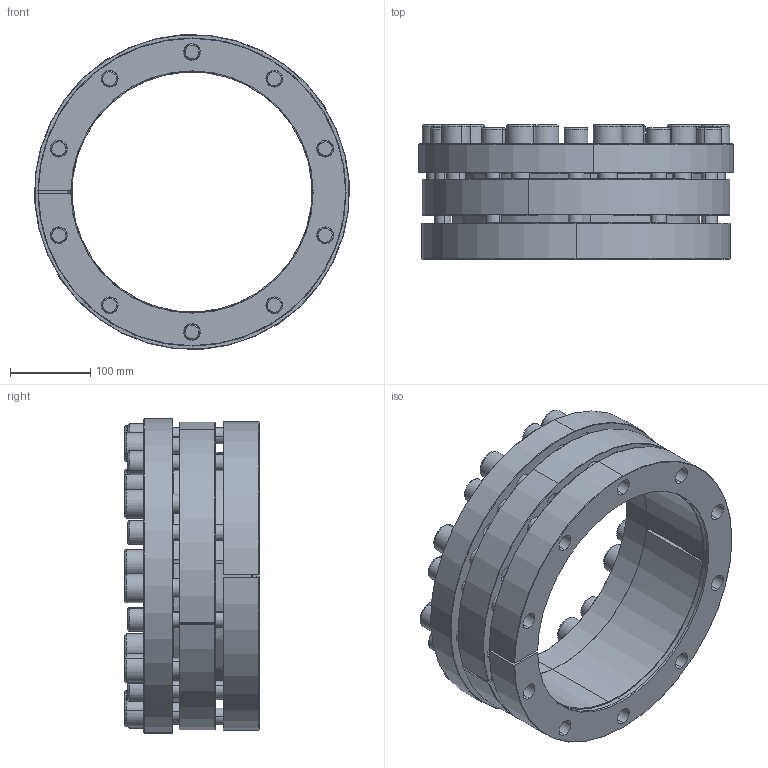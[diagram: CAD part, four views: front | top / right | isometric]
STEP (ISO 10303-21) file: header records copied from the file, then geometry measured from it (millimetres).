
FILE_DESCRIPTION (( 'STEP AP214' ), '1' );
FILE_NAME ('CONEX-P-300x385-P-009.step', '2015-11-30T21:14:19', ( '' ), ( '' ), 'SwSTEP 2.0', 'SolidWorks 2013', '' );
FILE_SCHEMA (( 'AUTOMOTIVE_DESIGN' ));
Length unit declared in the file: millimetre
Products named in the file (1): CONEX-P-300x385-P-009
Bounding box: 393.27 x 168.01 x 393.27 mm (x, y, z)
Volume: 6258749.6 mm3; surface area: 1070569.9 mm2
Topology: 23 solids, 23 shells, 728 faces, 1679 edges, 998 vertices
Faces by surface type: plane 321, cylinder 209, cone 116, torus 82
Entity records: 28785 total; most frequent: DIRECTION 3857, CARTESIAN_POINT 3488, ORIENTED_EDGE 3278, EDGE_CURVE 1639, AXIS2_PLACEMENT_3D 1517, VERTEX_POINT 998, EDGE_LOOP 879, VECTOR 823
